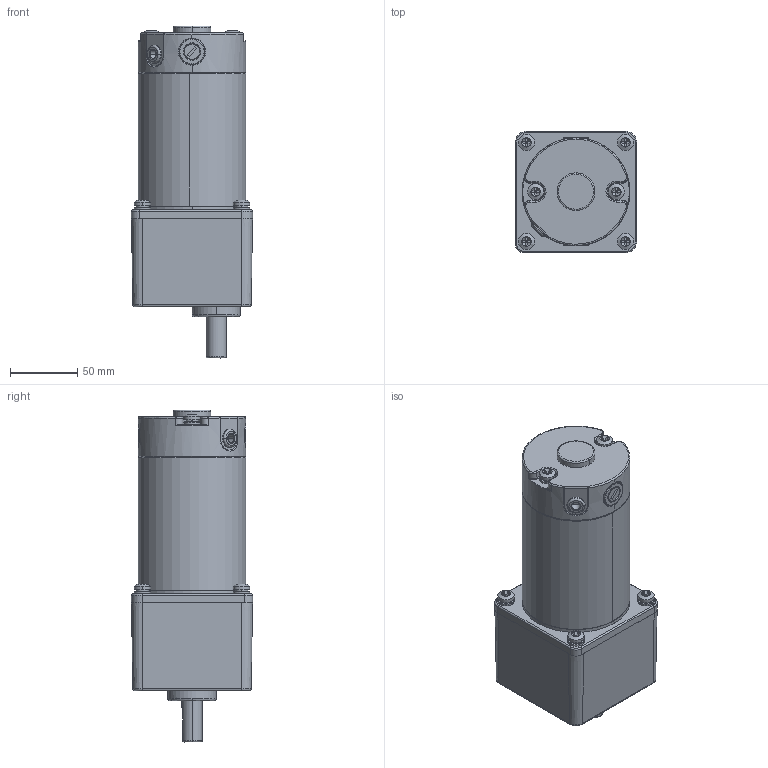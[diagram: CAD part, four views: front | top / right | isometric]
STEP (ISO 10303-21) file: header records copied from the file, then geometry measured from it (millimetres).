
FILE_DESCRIPTION (( 'STEP AP203' ), '1' );
FILE_NAME ('90饜5GU喘謫眊-99儂褲.STEP', '2021-07-12T09:38:08', ( '' ), ( '' ), 'SwSTEP 2.0', 'SolidWorks 2021', '' );
FILE_SCHEMA (( 'CONFIG_CONTROL_DESIGN' ));
Length unit declared in the file: millimetre
Products named in the file (8): QIGAI_1; PENGDIAN_2; HOUGAI-80-1_2; 90饜5GU喘謫眊-99儂褲; LUDING_2; JIKE-99; TANDIAN_2; 90-3
Assembly tree (22 placements, depth 2):
  90饜5GU喘謫眊-99儂褲
    JIKE-99
    QIGAI_1
    TANDIAN_2  x6
    PENGDIAN_2  x6
    LUDING_2  x6
    HOUGAI-80-1_2
    90-3
Bounding box: 90 x 90 x 246.5 mm (x, y, z)
Volume: 714840.1 mm3; surface area: 151852.8 mm2
Topology: 26 solids, 26 shells, 705 faces, 1661 edges, 1024 vertices
Faces by surface type: cylinder 230, cone 205, plane 180, bspline 76, torus 14
Entity records: 16686 total; most frequent: CARTESIAN_POINT 6636, DIRECTION 1883, ORIENTED_EDGE 1828, EDGE_CURVE 914, AXIS2_PLACEMENT_3D 765, VERTEX_POINT 569, EDGE_LOOP 439, CIRCLE 416
